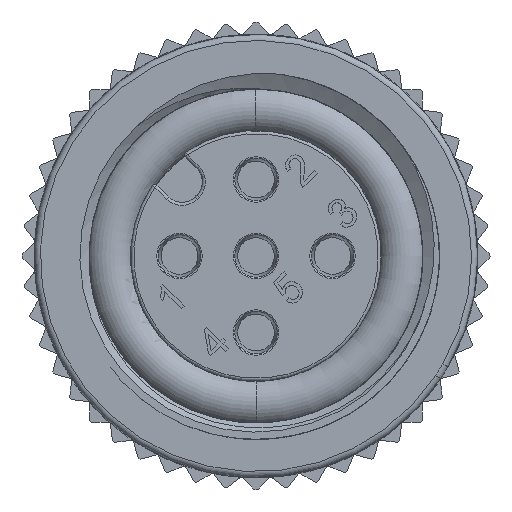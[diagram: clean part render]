
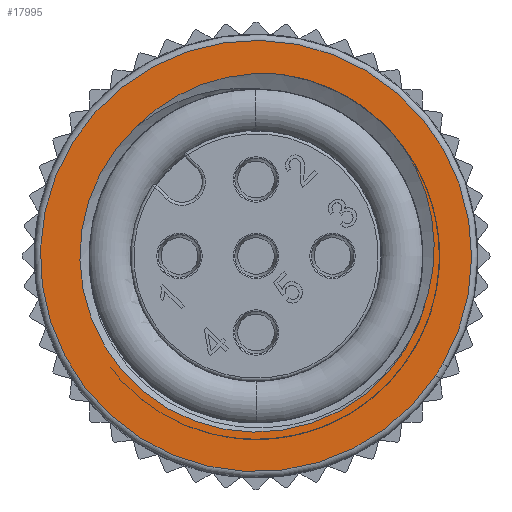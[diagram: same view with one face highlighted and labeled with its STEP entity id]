
A CAD part, left-side view. The second image highlights one B-rep face of the part: STEP entity #17995.
In plain terms, the highlighted planar face has unit normal (-1, 0, 0) as drawn and (1, 0, 0) by its records, which use the part's own axes.
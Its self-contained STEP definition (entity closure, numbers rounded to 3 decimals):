
#959=CARTESIAN_POINT('',(-1.,4.232,3.905));
#979=CARTESIAN_POINT('',(-1.,0.,0.));
#980=DIRECTION('',(-1.,0.,0.));
#981=DIRECTION('',(0.,-0.22,-0.976));
#982=AXIS2_PLACEMENT_3D('',#979,#980,#981);
#1157=CARTESIAN_POINT('',(-1.,3.653,-4.76));
#1395=CARTESIAN_POINT('',(-1.,0.,0.));
#1396=DIRECTION('',(-1.,0.,0.));
#1397=DIRECTION('',(0.,-0.5,-0.866));
#1398=AXIS2_PLACEMENT_3D('',#1395,#1396,#1397);
#1400=CARTESIAN_POINT('',(-1.,0.,0.));
#1401=DIRECTION('',(-1.,0.,0.));
#1402=DIRECTION('',(0.,-0.553,-0.833));
#1403=AXIS2_PLACEMENT_3D('',#1400,#1401,#1402);
#1405=CARTESIAN_POINT('',(-1.,5.949,-0.783));
#1406=CARTESIAN_POINT('',(-1.,5.96,-0.649));
#1407=CARTESIAN_POINT('',(-1.,5.974,
-0.381));
#1408=CARTESIAN_POINT('',(-1.,5.967,
0.021));
#1409=CARTESIAN_POINT('',(-1.,5.934,
0.42));
#1410=CARTESIAN_POINT('',(-1.,5.874,
0.815));
#1411=CARTESIAN_POINT('',(-1.,5.788,
1.205));
#1412=CARTESIAN_POINT('',(-1.,5.676,1.587));
#1413=CARTESIAN_POINT('',(-1.,5.538,
1.96));
#1414=CARTESIAN_POINT('',(-1.,5.376,2.321));
#1415=CARTESIAN_POINT('',(-1.,5.191,
2.67));
#1416=CARTESIAN_POINT('',(-1.,4.983,3.005));
#1417=CARTESIAN_POINT('',(-1.,4.753,
3.325));
#1418=CARTESIAN_POINT('',(-1.,4.503,3.626));
#1419=CARTESIAN_POINT('',(-1.,4.325,
3.814));
#1420=CARTESIAN_POINT('',(-1.,4.232,
3.905));
#1422=CARTESIAN_POINT('',(-1.,3.653,-4.76));
#1423=CARTESIAN_POINT('',(-1.,3.542,-4.837));
#1424=CARTESIAN_POINT('',(-1.,3.317,
-4.983));
#1425=CARTESIAN_POINT('',(-1.,2.966,
-5.178));
#1426=CARTESIAN_POINT('',(-1.,2.603,
-5.349));
#1427=CARTESIAN_POINT('',(-1.,2.231,
-5.495));
#1428=CARTESIAN_POINT('',(-1.,1.85,
-5.615));
#1429=CARTESIAN_POINT('',(-1.,1.463,
-5.709));
#1430=CARTESIAN_POINT('',(-1.,1.072,
-5.776));
#1431=CARTESIAN_POINT('',(-1.,0.678,
-5.817));
#1432=CARTESIAN_POINT('',(-1.,0.283,
-5.831));
#1433=CARTESIAN_POINT('',(-1.,-0.111,
-5.818));
#1434=CARTESIAN_POINT('',(-1.,-0.503,
-5.778));
#1435=CARTESIAN_POINT('',(-1.,-0.889,
-5.713));
#1436=CARTESIAN_POINT('',(-1.,-1.141,
-5.652));
#1437=CARTESIAN_POINT('',(-1.,-1.266,
-5.618));
#1439=CARTESIAN_POINT('',(-1.,5.949,-0.783));
#1440=CARTESIAN_POINT('',(-1.,5.93,-0.925));
#1441=CARTESIAN_POINT('',(-1.,5.883,-1.206));
#1442=CARTESIAN_POINT('',(-1.,5.782,-1.623));
#1443=CARTESIAN_POINT('',(-1.,5.651,-2.032));
#1444=CARTESIAN_POINT('',(-1.,5.492,-2.429));
#1445=CARTESIAN_POINT('',(-1.,5.304,-2.815));
#1446=CARTESIAN_POINT('',(-1.,5.09,-3.186));
#1447=CARTESIAN_POINT('',(-1.,4.85,-3.541));
#1448=CARTESIAN_POINT('',(-1.,4.585,-3.878));
#1449=CARTESIAN_POINT('',(-1.,4.296,-4.195));
#1450=CARTESIAN_POINT('',(-1.,3.986,-4.491));
#1451=CARTESIAN_POINT('',(-1.,3.766,-4.673));
#1452=CARTESIAN_POINT('',(-1.,3.653,-4.76));
#11032=CARTESIAN_POINT('',(-1.,5.949,-0.783));
#15290=VERTEX_POINT('',#11032);
#15291=VERTEX_POINT('',#1157);
#15335=VERTEX_POINT('',#959);
#15337=VERTEX_POINT('',#1437);
#15767=CARTESIAN_POINT('',(-1.,-3.525,-6.105));
#15768=CARTESIAN_POINT('',(-1.,-3.902,-5.872));
#15769=VERTEX_POINT('',#15767);
#15770=VERTEX_POINT('',#15768);
#17977=CARTESIAN_POINT('',(-1.,0.,0.));
#17978=DIRECTION('',(-1.,0.,0.));
#17979=DIRECTION('',(0.,-0.866,0.5));
#17980=AXIS2_PLACEMENT_3D('',#17977,#17978,#17979);
#17981=PLANE('',#17980);
#17983=ORIENTED_EDGE('',*,*,#17982,.T.);
#17985=ORIENTED_EDGE('',*,*,#17984,.T.);
#17986=EDGE_LOOP('',(#17983,#17985));
#17987=FACE_OUTER_BOUND('',#17986,.F.);
#17988=ORIENTED_EDGE('',*,*,#17614,.T.);
#17989=ORIENTED_EDGE('',*,*,#17650,.F.);
#17990=ORIENTED_EDGE('',*,*,#17953,.F.);
#17992=ORIENTED_EDGE('',*,*,#17991,.F.);
#17993=EDGE_LOOP('',(#17988,#17989,#17990,#17992));
#17994=FACE_BOUND('',#17993,.F.);
#17995=ADVANCED_FACE('',(#17987,#17994),#17981,.F.);
#983=CIRCLE('',#982,5.759);
#1399=CIRCLE('',#1398,7.05);
#1404=CIRCLE('',#1403,7.05);
#1421=B_SPLINE_CURVE_WITH_KNOTS('',3,(#1405,#1406,#1407,#1408,#1409,#1410,#1411,
#1412,#1413,#1414,#1415,#1416,#1417,#1418,#1419,#1420),.UNSPECIFIED.,.F.,.F.,(4,
1,1,1,1,1,1,1,1,1,1,1,1,4),(0.,0.077,0.154,
0.231,0.308,0.385,0.462,
0.538,0.615,0.692,0.769,
0.846,0.923,1.),.UNSPECIFIED.);
#1438=B_SPLINE_CURVE_WITH_KNOTS('',3,(#1422,#1423,#1424,#1425,#1426,#1427,#1428,
#1429,#1430,#1431,#1432,#1433,#1434,#1435,#1436,#1437),.UNSPECIFIED.,.F.,.F.,(4,
1,1,1,1,1,1,1,1,1,1,1,1,4),(0.,0.077,0.154,
0.231,0.308,0.385,0.462,
0.538,0.615,0.692,0.769,
0.846,0.923,1.),.UNSPECIFIED.);
#1453=B_SPLINE_CURVE_WITH_KNOTS('',3,(#1439,#1440,#1441,#1442,#1443,#1444,#1445,
#1446,#1447,#1448,#1449,#1450,#1451,#1452),.UNSPECIFIED.,.F.,.F.,(4,1,1,1,1,1,1,
1,1,1,1,4),(0.,0.091,0.182,0.273,
0.364,0.455,0.545,0.636,
0.727,0.818,0.909,1.),.UNSPECIFIED.);
#17614=EDGE_CURVE('',#15290,#15335,#1421,.T.);
#17650=EDGE_CURVE('',#15337,#15335,#983,.T.);
#17953=EDGE_CURVE('',#15291,#15337,#1438,.T.);
#17982=EDGE_CURVE('',#15769,#15770,#1399,.T.);
#17984=EDGE_CURVE('',#15770,#15769,#1404,.T.);
#17991=EDGE_CURVE('',#15290,#15291,#1453,.T.);
